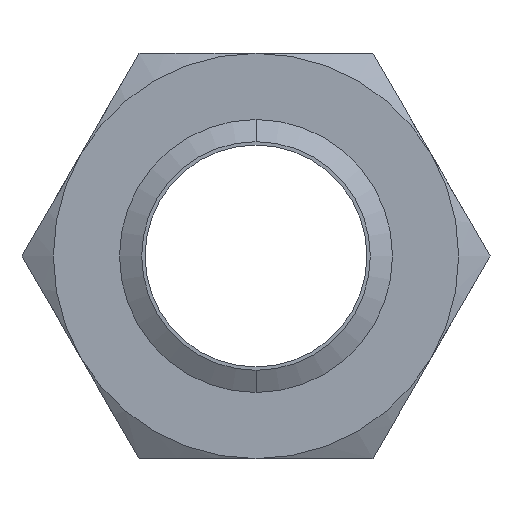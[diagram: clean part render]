
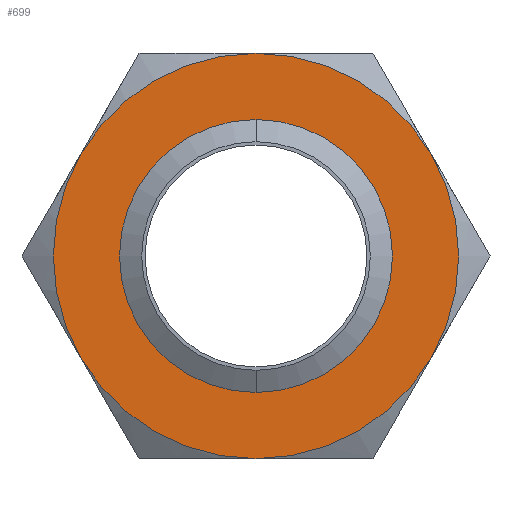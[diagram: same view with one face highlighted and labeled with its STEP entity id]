
A CAD part, front view. The second image highlights one B-rep face of the part: STEP entity #699.
In plain terms, the highlighted planar face has unit normal (0, -1, 0).
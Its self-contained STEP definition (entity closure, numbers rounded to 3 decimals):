
#121 = DIRECTION ( 'NONE',  ( 0., 0., 1. ) ) ;
#146 = EDGE_CURVE ( 'NONE', #147, #153, #1088, .T. ) ;
#147 = VERTEX_POINT ( 'NONE', #1082 ) ;
#153 = VERTEX_POINT ( 'NONE', #1074 ) ;
#644 = EDGE_CURVE ( 'NONE', #702, #645, #2003, .T. ) ;
#645 = VERTEX_POINT ( 'NONE', #2004 ) ;
#646 = ORIENTED_EDGE ( 'NONE', *, *, #647, .F. ) ;
#647 = EDGE_CURVE ( 'NONE', #648, #702, #1998, .T. ) ;
#648 = VERTEX_POINT ( 'NONE', #1993 ) ;
#649 = ORIENTED_EDGE ( 'NONE', *, *, #650, .F. ) ;
#650 = EDGE_CURVE ( 'NONE', #651, #648, #1991, .T. ) ;
#651 = VERTEX_POINT ( 'NONE', #1992 ) ;
#652 = ORIENTED_EDGE ( 'NONE', *, *, #653, .F. ) ;
#653 = EDGE_CURVE ( 'NONE', #654, #651, #1986, .T. ) ;
#654 = VERTEX_POINT ( 'NONE', #2044 ) ;
#655 = ORIENTED_EDGE ( 'NONE', *, *, #656, .F. ) ;
#656 = EDGE_CURVE ( 'NONE', #657, #654, #2043, .T. ) ;
#657 = VERTEX_POINT ( 'NONE', #2038 ) ;
#658 = ORIENTED_EDGE ( 'NONE', *, *, #743, .F. ) ;
#699 = ADVANCED_FACE ( 'NONE', ( #2087, #2086 ), #2085, .F. ) ;
#700 = EDGE_LOOP ( 'NONE', ( #701, #646, #649, #652, #655, #658 ) ) ;
#701 = ORIENTED_EDGE ( 'NONE', *, *, #644, .F. ) ;
#702 = VERTEX_POINT ( 'NONE', #2082 ) ;
#743 = EDGE_CURVE ( 'NONE', #645, #657, #2194, .T. ) ;
#744 = EDGE_LOOP ( 'NONE', ( #745, #746 ) ) ;
#745 = ORIENTED_EDGE ( 'NONE', *, *, #146, .F. ) ;
#746 = ORIENTED_EDGE ( 'NONE', *, *, #747, .F. ) ;
#747 = EDGE_CURVE ( 'NONE', #153, #147, #2189, .T. ) ;
#1074 = CARTESIAN_POINT ( 'NONE',  ( 0., 0., 26.804 ) ) ;
#1082 = CARTESIAN_POINT ( 'NONE',  ( 0., 0., -26.804 ) ) ;
#1084 = DIRECTION ( 'NONE',  ( 0., 0., -1. ) ) ;
#1085 = DIRECTION ( 'NONE',  ( 0., -1., 0. ) ) ;
#1086 = CARTESIAN_POINT ( 'NONE',  ( 0., 0., 0. ) ) ;
#1087 = AXIS2_PLACEMENT_3D ( 'NONE', #1086, #1085, #1084 ) ;
#1088 = CIRCLE ( 'NONE', #1087, 26.804 ) ;
#1746 = DIRECTION ( 'NONE',  ( 0., 1., 0. ) ) ;
#1984 = CARTESIAN_POINT ( 'NONE',  ( 0., 0., 0. ) ) ;
#1985 = AXIS2_PLACEMENT_3D ( 'NONE', #1984, #1746, #121 ) ;
#1986 = CIRCLE ( 'NONE', #1985, 47.5 ) ;
#1987 = DIRECTION ( 'NONE',  ( 0., 0., 1. ) ) ;
#1988 = DIRECTION ( 'NONE',  ( 0., 1., 0. ) ) ;
#1989 = CARTESIAN_POINT ( 'NONE',  ( 0., 0., 0. ) ) ;
#1990 = AXIS2_PLACEMENT_3D ( 'NONE', #1989, #1988, #1987 ) ;
#1991 = CIRCLE ( 'NONE', #1990, 47.5 ) ;
#1992 = CARTESIAN_POINT ( 'NONE',  ( -41.136, 0., -23.75 ) ) ;
#1993 = CARTESIAN_POINT ( 'NONE',  ( -41.136, 0., 23.75 ) ) ;
#1994 = DIRECTION ( 'NONE',  ( 0., 0., 1. ) ) ;
#1995 = DIRECTION ( 'NONE',  ( 0., 1., 0. ) ) ;
#1996 = CARTESIAN_POINT ( 'NONE',  ( 0., 0., 0. ) ) ;
#1997 = AXIS2_PLACEMENT_3D ( 'NONE', #1996, #1995, #1994 ) ;
#1998 = CIRCLE ( 'NONE', #1997, 47.5 ) ;
#1999 = DIRECTION ( 'NONE',  ( 0., 0., 1. ) ) ;
#2000 = DIRECTION ( 'NONE',  ( 0., 1., 0. ) ) ;
#2001 = CARTESIAN_POINT ( 'NONE',  ( 0., 0., 0. ) ) ;
#2002 = AXIS2_PLACEMENT_3D ( 'NONE', #2001, #2000, #1999 ) ;
#2003 = CIRCLE ( 'NONE', #2002, 47.5 ) ;
#2004 = CARTESIAN_POINT ( 'NONE',  ( 41.136, 0., 23.75 ) ) ;
#2038 = CARTESIAN_POINT ( 'NONE',  ( 41.136, 0., -23.75 ) ) ;
#2039 = DIRECTION ( 'NONE',  ( 0., 0., 1. ) ) ;
#2040 = DIRECTION ( 'NONE',  ( 0., 1., 0. ) ) ;
#2041 = CARTESIAN_POINT ( 'NONE',  ( 0., 0., 0. ) ) ;
#2042 = AXIS2_PLACEMENT_3D ( 'NONE', #2041, #2040, #2039 ) ;
#2043 = CIRCLE ( 'NONE', #2042, 47.5 ) ;
#2044 = CARTESIAN_POINT ( 'NONE',  ( 0., 0., -47.5 ) ) ;
#2080 = DIRECTION ( 'NONE',  ( 0., 0., 1. ) ) ;
#2081 = DIRECTION ( 'NONE',  ( 0., 1., 0. ) ) ;
#2082 = CARTESIAN_POINT ( 'NONE',  ( 0., 0., 47.5 ) ) ;
#2083 = CARTESIAN_POINT ( 'NONE',  ( 27.424, 0., -47.5 ) ) ;
#2084 = AXIS2_PLACEMENT_3D ( 'NONE', #2083, #2081, #2080 ) ;
#2085 = PLANE ( 'NONE',  #2084 ) ;
#2086 = FACE_BOUND ( 'NONE', #744, .T. ) ;
#2087 = FACE_OUTER_BOUND ( 'NONE', #700, .T. ) ;
#2186 = DIRECTION ( 'NONE',  ( 0., 0., -1. ) ) ;
#2187 = DIRECTION ( 'NONE',  ( 0., -1., 0. ) ) ;
#2188 = AXIS2_PLACEMENT_3D ( 'NONE', #2195, #2187, #2186 ) ;
#2189 = CIRCLE ( 'NONE', #2188, 26.804 ) ;
#2190 = DIRECTION ( 'NONE',  ( 0., 0., 1. ) ) ;
#2191 = DIRECTION ( 'NONE',  ( 0., 1., 0. ) ) ;
#2192 = CARTESIAN_POINT ( 'NONE',  ( 0., 0., 0. ) ) ;
#2193 = AXIS2_PLACEMENT_3D ( 'NONE', #2192, #2191, #2190 ) ;
#2194 = CIRCLE ( 'NONE', #2193, 47.5 ) ;
#2195 = CARTESIAN_POINT ( 'NONE',  ( 0., 0., 0. ) ) ;
